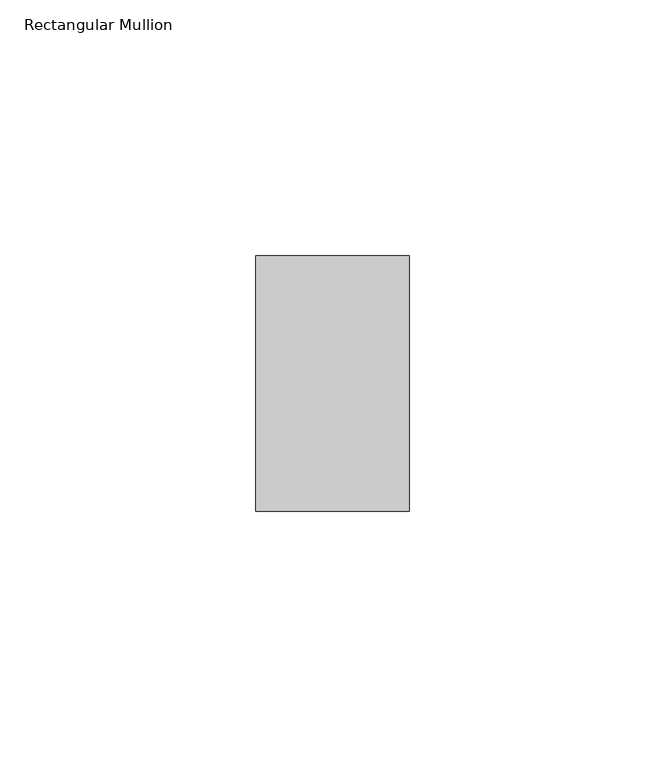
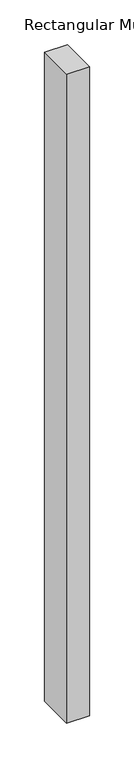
"""IFC4 building model written with IfcOpenShell, lengths in millimetres: member geometry, Rectangular Mullion : ARQ_TV_MULL_50x30mm."""

from ifc_helpers import new_model, si_unit, frame, origin, place, context, project, spatial, polyline, outline, extrude, source, transform, mapped, element, save


def rectangular_mullion_e90513ae(model_context):
    return source(origin(), model_context, "Body", "SweptSolid", [
        extrude(outline(polyline([(0.0, 25.0), (0.0, -25.0), (-30.0, -25.0), (-30.0, 25.0), (0.0, 25.0)])), frame((0.0, 0.0, -889.9999998), z_axis=(0.0, 0.0, 1.0), x_axis=(1.0, 0.0, 0.0)), (0.0, 0.0, 1.0), 889.9999998),
    ])


if __name__ == "__main__":
    model = new_model("IFC4")
    model_context = context("Model", 3, world=origin())
    ifc_project = project(units=[si_unit("LENGTHUNIT", "METRE", prefix="MILLI")], contexts=[model_context])
    site = spatial("IfcSite", under=ifc_project)
    building = spatial("IfcBuilding", under=site)
    placement = place(None, origin())
    rectangular_mullion_shape = rectangular_mullion_e90513ae(model_context)
    element("IfcMember", 1, ObjectType="Rectangular Mullion : ARQ_TV_MULL_50x30mm", at=placement, inside=building, context=model_context, shape_type="MappedRepresentation", body=[
        mapped(rectangular_mullion_shape, transform((0.0, 0.0, 0.0), x_axis=(1.0, 0.0, 0.0), y_axis=(0.0, 1.0, 0.0), z_axis=(0.0, 0.0, 1.0))),
    ])
    save(model, "model.ifc")
